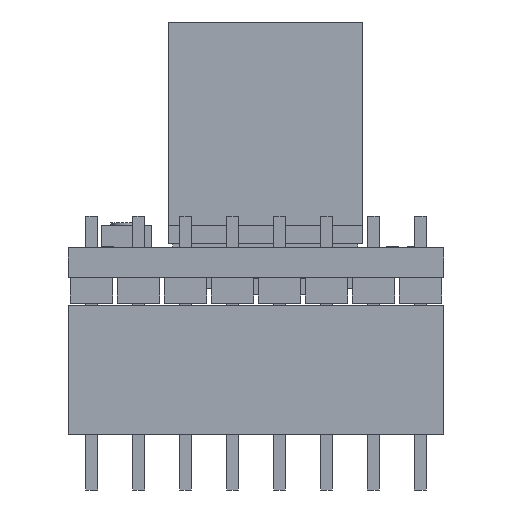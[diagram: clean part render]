
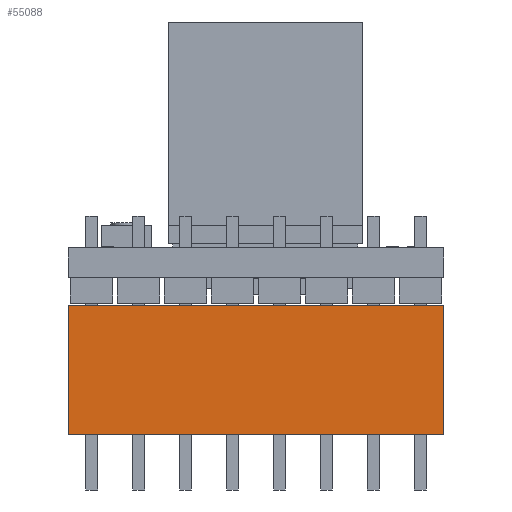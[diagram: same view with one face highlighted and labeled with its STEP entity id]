
A CAD part, left-side view. The second image highlights one B-rep face of the part: STEP entity #55088.
In plain terms, the highlighted planar face has unit normal (-1, 0, 0).
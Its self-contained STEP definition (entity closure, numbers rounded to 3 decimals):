
#55088 = ADVANCED_FACE('',(#55089),#55103,.F.);
#55089 = FACE_BOUND('',#55090,.F.);
#55090 = EDGE_LOOP('',(#55091,#55126,#55154,#55182));
#55091 = ORIENTED_EDGE('',*,*,#55092,.F.);
#55092 = EDGE_CURVE('',#55093,#55095,#55097,.T.);
#55093 = VERTEX_POINT('',#55094);
#55094 = CARTESIAN_POINT('',(-7.62,-10.16,0.));
#55095 = VERTEX_POINT('',#55096);
#55096 = CARTESIAN_POINT('',(-7.62,-10.16,7.));
#55097 = SURFACE_CURVE('',#55098,(#55102,#55114),.PCURVE_S1.);
#55098 = LINE('',#55099,#55100);
#55099 = CARTESIAN_POINT('',(-7.62,-10.16,0.));
#55100 = VECTOR('',#55101,1.);
#55101 = DIRECTION('',(0.,0.,1.));
#55102 = PCURVE('',#55103,#55108);
#55103 = PLANE('',#55104);
#55104 = AXIS2_PLACEMENT_3D('',#55105,#55106,#55107);
#55105 = CARTESIAN_POINT('',(-7.62,-10.16,0.));
#55106 = DIRECTION('',(1.,0.,0.));
#55107 = DIRECTION('',(0.,0.,1.));
#55108 = DEFINITIONAL_REPRESENTATION('',(#55109),#55113);
#55109 = LINE('',#55110,#55111);
#55110 = CARTESIAN_POINT('',(0.,0.));
#55111 = VECTOR('',#55112,1.);
#55112 = DIRECTION('',(1.,0.));
#55113 = ( GEOMETRIC_REPRESENTATION_CONTEXT(2) 
PARAMETRIC_REPRESENTATION_CONTEXT() REPRESENTATION_CONTEXT('2D SPACE',''
  ) );
#55114 = PCURVE('',#55115,#55120);
#55115 = PLANE('',#55116);
#55116 = AXIS2_PLACEMENT_3D('',#55117,#55118,#55119);
#55117 = CARTESIAN_POINT('',(-7.62,-10.16,0.));
#55118 = DIRECTION('',(0.,1.,0.));
#55119 = DIRECTION('',(0.,0.,1.));
#55120 = DEFINITIONAL_REPRESENTATION('',(#55121),#55125);
#55121 = LINE('',#55122,#55123);
#55122 = CARTESIAN_POINT('',(0.,0.));
#55123 = VECTOR('',#55124,1.);
#55124 = DIRECTION('',(1.,0.));
#55125 = ( GEOMETRIC_REPRESENTATION_CONTEXT(2) 
PARAMETRIC_REPRESENTATION_CONTEXT() REPRESENTATION_CONTEXT('2D SPACE',''
  ) );
#55126 = ORIENTED_EDGE('',*,*,#55127,.T.);
#55127 = EDGE_CURVE('',#55093,#55128,#55130,.T.);
#55128 = VERTEX_POINT('',#55129);
#55129 = CARTESIAN_POINT('',(-7.62,10.16,0.));
#55130 = SURFACE_CURVE('',#55131,(#55135,#55142),.PCURVE_S1.);
#55131 = LINE('',#55132,#55133);
#55132 = CARTESIAN_POINT('',(-7.62,-10.16,0.));
#55133 = VECTOR('',#55134,1.);
#55134 = DIRECTION('',(0.,1.,0.));
#55135 = PCURVE('',#55103,#55136);
#55136 = DEFINITIONAL_REPRESENTATION('',(#55137),#55141);
#55137 = LINE('',#55138,#55139);
#55138 = CARTESIAN_POINT('',(0.,0.));
#55139 = VECTOR('',#55140,1.);
#55140 = DIRECTION('',(0.,-1.));
#55141 = ( GEOMETRIC_REPRESENTATION_CONTEXT(2) 
PARAMETRIC_REPRESENTATION_CONTEXT() REPRESENTATION_CONTEXT('2D SPACE',''
  ) );
#55142 = PCURVE('',#55143,#55148);
#55143 = PLANE('',#55144);
#55144 = AXIS2_PLACEMENT_3D('',#55145,#55146,#55147);
#55145 = CARTESIAN_POINT('',(-7.62,-10.16,0.));
#55146 = DIRECTION('',(0.,0.,1.));
#55147 = DIRECTION('',(1.,0.,0.));
#55148 = DEFINITIONAL_REPRESENTATION('',(#55149),#55153);
#55149 = LINE('',#55150,#55151);
#55150 = CARTESIAN_POINT('',(0.,0.));
#55151 = VECTOR('',#55152,1.);
#55152 = DIRECTION('',(0.,1.));
#55153 = ( GEOMETRIC_REPRESENTATION_CONTEXT(2) 
PARAMETRIC_REPRESENTATION_CONTEXT() REPRESENTATION_CONTEXT('2D SPACE',''
  ) );
#55154 = ORIENTED_EDGE('',*,*,#55155,.T.);
#55155 = EDGE_CURVE('',#55128,#55156,#55158,.T.);
#55156 = VERTEX_POINT('',#55157);
#55157 = CARTESIAN_POINT('',(-7.62,10.16,7.));
#55158 = SURFACE_CURVE('',#55159,(#55163,#55170),.PCURVE_S1.);
#55159 = LINE('',#55160,#55161);
#55160 = CARTESIAN_POINT('',(-7.62,10.16,0.));
#55161 = VECTOR('',#55162,1.);
#55162 = DIRECTION('',(0.,0.,1.));
#55163 = PCURVE('',#55103,#55164);
#55164 = DEFINITIONAL_REPRESENTATION('',(#55165),#55169);
#55165 = LINE('',#55166,#55167);
#55166 = CARTESIAN_POINT('',(0.,-20.32));
#55167 = VECTOR('',#55168,1.);
#55168 = DIRECTION('',(1.,0.));
#55169 = ( GEOMETRIC_REPRESENTATION_CONTEXT(2) 
PARAMETRIC_REPRESENTATION_CONTEXT() REPRESENTATION_CONTEXT('2D SPACE',''
  ) );
#55170 = PCURVE('',#55171,#55176);
#55171 = PLANE('',#55172);
#55172 = AXIS2_PLACEMENT_3D('',#55173,#55174,#55175);
#55173 = CARTESIAN_POINT('',(-7.62,10.16,0.));
#55174 = DIRECTION('',(0.,1.,0.));
#55175 = DIRECTION('',(0.,0.,1.));
#55176 = DEFINITIONAL_REPRESENTATION('',(#55177),#55181);
#55177 = LINE('',#55178,#55179);
#55178 = CARTESIAN_POINT('',(0.,0.));
#55179 = VECTOR('',#55180,1.);
#55180 = DIRECTION('',(1.,0.));
#55181 = ( GEOMETRIC_REPRESENTATION_CONTEXT(2) 
PARAMETRIC_REPRESENTATION_CONTEXT() REPRESENTATION_CONTEXT('2D SPACE',''
  ) );
#55182 = ORIENTED_EDGE('',*,*,#55183,.F.);
#55183 = EDGE_CURVE('',#55095,#55156,#55184,.T.);
#55184 = SURFACE_CURVE('',#55185,(#55189,#55196),.PCURVE_S1.);
#55185 = LINE('',#55186,#55187);
#55186 = CARTESIAN_POINT('',(-7.62,-10.16,7.));
#55187 = VECTOR('',#55188,1.);
#55188 = DIRECTION('',(0.,1.,0.));
#55189 = PCURVE('',#55103,#55190);
#55190 = DEFINITIONAL_REPRESENTATION('',(#55191),#55195);
#55191 = LINE('',#55192,#55193);
#55192 = CARTESIAN_POINT('',(7.,0.));
#55193 = VECTOR('',#55194,1.);
#55194 = DIRECTION('',(0.,-1.));
#55195 = ( GEOMETRIC_REPRESENTATION_CONTEXT(2) 
PARAMETRIC_REPRESENTATION_CONTEXT() REPRESENTATION_CONTEXT('2D SPACE',''
  ) );
#55196 = PCURVE('',#55197,#55202);
#55197 = PLANE('',#55198);
#55198 = AXIS2_PLACEMENT_3D('',#55199,#55200,#55201);
#55199 = CARTESIAN_POINT('',(-7.62,-10.16,7.));
#55200 = DIRECTION('',(0.,0.,1.));
#55201 = DIRECTION('',(1.,0.,0.));
#55202 = DEFINITIONAL_REPRESENTATION('',(#55203),#55207);
#55203 = LINE('',#55204,#55205);
#55204 = CARTESIAN_POINT('',(0.,0.));
#55205 = VECTOR('',#55206,1.);
#55206 = DIRECTION('',(0.,1.));
#55207 = ( GEOMETRIC_REPRESENTATION_CONTEXT(2) 
PARAMETRIC_REPRESENTATION_CONTEXT() REPRESENTATION_CONTEXT('2D SPACE',''
  ) );
